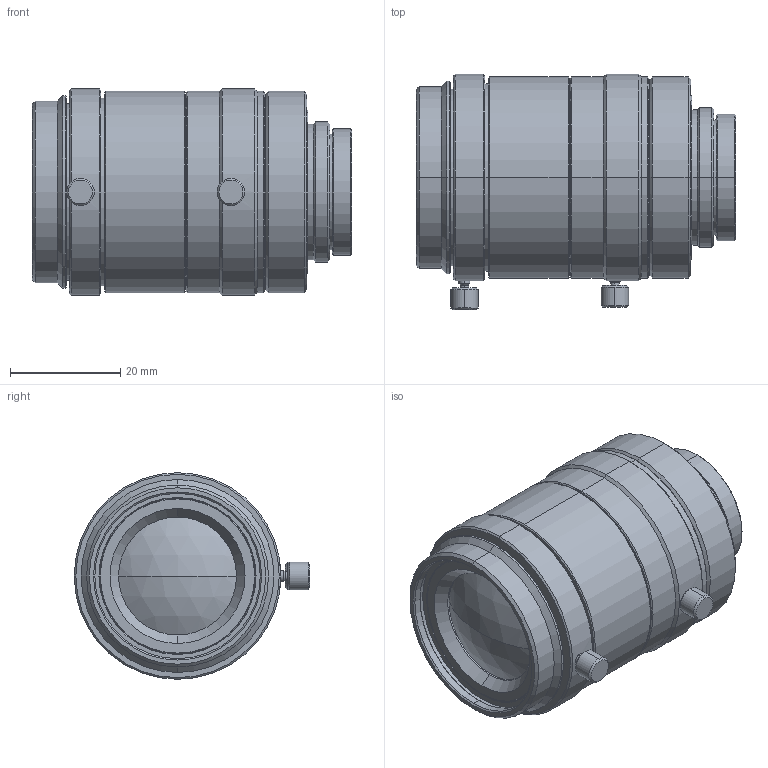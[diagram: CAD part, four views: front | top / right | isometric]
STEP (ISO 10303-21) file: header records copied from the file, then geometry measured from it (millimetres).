
FILE_DESCRIPTION (( 'STEP AP214' ), '1' );
FILE_NAME ('VS-HVA1626.STEP', '2021-09-13T03:03:00', ( '' ), ( '' ), 'SwSTEP 2.0', 'SolidWorks 2021', '' );
FILE_SCHEMA (( 'AUTOMOTIVE_DESIGN' ));
Length unit declared in the file: millimetre
Products named in the file (1): VS-HVA1626
Bounding box: 57.88 x 42.75 x 37.5 mm (x, y, z)
Volume: 52786.3 mm3; surface area: 10288.8 mm2
Topology: 1 solids, 1 shells, 136 faces, 274 edges, 160 vertices
Faces by surface type: cone 64, cylinder 48, plane 20, sphere 4
Entity records: 3622 total; most frequent: DIRECTION 702, CARTESIAN_POINT 635, ORIENTED_EDGE 548, AXIS2_PLACEMENT_3D 295, EDGE_CURVE 274, VERTEX_POINT 160, CIRCLE 158, EDGE_LOOP 156
